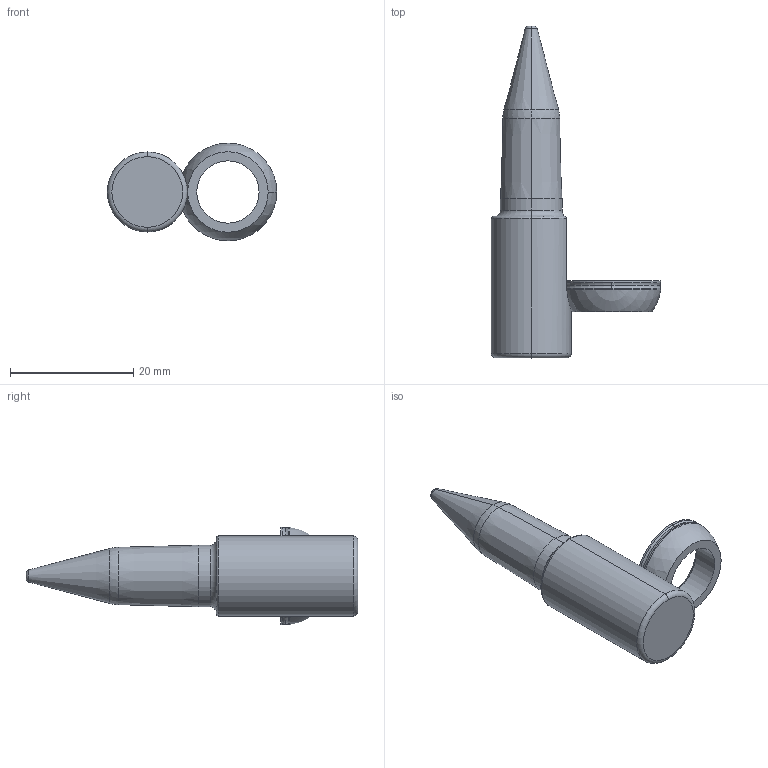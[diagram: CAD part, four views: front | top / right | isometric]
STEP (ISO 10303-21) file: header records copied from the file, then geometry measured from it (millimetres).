
FILE_DESCRIPTION (( 'STEP AP214' ), '1' );
FILE_NAME ('PA-T-10mm-1.9mm-13mm-3-A-F1.STEP', '2019-05-08T17:56:48', ( '' ), ( '' ), 'SwSTEP 2.0', 'SolidWorks 2017', '' );
FILE_SCHEMA (( 'AUTOMOTIVE_DESIGN' ));
Length unit declared in the file: inch
Products named in the file (3): PA-T-10mm-1.9mm-13mm-3-A-F1; SLRadiusWasher_RadiusWasher-M; SLPilot-PA-T-M_PA-T-10-1.9-13-3-A-F1
Assembly tree (2 placements, depth 2):
  PA-T-10mm-1.9mm-13mm-3-A-F1
    SLRadiusWasher_RadiusWasher-M
    SLPilot-PA-T-M_PA-T-10-1.9-13-3-A-F1
Bounding box: 27.54 x 53.9 x 15.88 mm (x, y, z)
Volume: 5077.2 mm3; surface area: 2421.7 mm2
Topology: 2 solids, 2 shells, 41 faces, 89 edges, 52 vertices
Faces by surface type: torus 15, cylinder 11, cone 6, plane 5, sphere 4
Entity records: 1318 total; most frequent: CARTESIAN_POINT 254, DIRECTION 242, ORIENTED_EDGE 178, AXIS2_PLACEMENT_3D 112, EDGE_CURVE 89, CIRCLE 66, VERTEX_POINT 52, EDGE_LOOP 43
